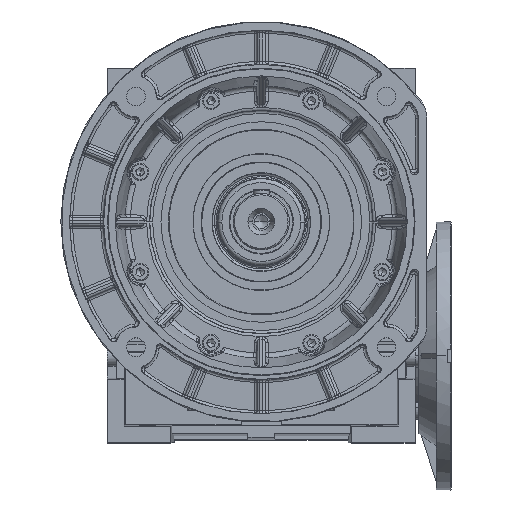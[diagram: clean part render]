
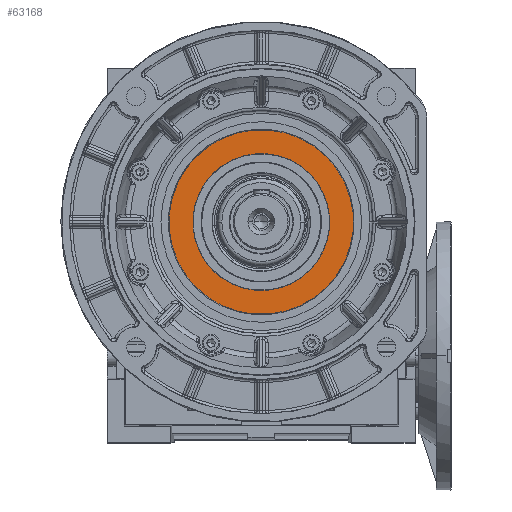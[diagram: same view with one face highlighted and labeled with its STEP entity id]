
A CAD part, top view. The second image highlights one B-rep face of the part: STEP entity #63168.
In plain terms, the highlighted planar face has unit normal (0, 0, 1).
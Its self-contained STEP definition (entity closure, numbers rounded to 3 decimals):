
#6466 = VERTEX_POINT ( 'NONE', #13175 ) ;
#6636 = CIRCLE ( 'NONE', #32523, 51.175 ) ;
#10559 = CIRCLE ( 'NONE', #72951, 69. ) ;
#10594 = CIRCLE ( 'NONE', #16642, 51.175 ) ;
#13175 = CARTESIAN_POINT ( 'NONE',  ( -36.186, -36.186, 65. ) ) ;
#16642 = AXIS2_PLACEMENT_3D ( 'NONE', #58616, #87701, #38140 ) ;
#16952 = VERTEX_POINT ( 'NONE', #38443 ) ;
#18520 = CIRCLE ( 'NONE', #51944, 69. ) ;
#19089 = EDGE_CURVE ( 'NONE', #6466, #16952, #10594, .T. ) ;
#19097 = DIRECTION ( 'NONE',  ( 0., 0., -1. ) ) ;
#20218 = DIRECTION ( 'NONE',  ( 0., 0., 1. ) ) ;
#23641 = ORIENTED_EDGE ( 'NONE', *, *, #35959, .F. ) ;
#24652 = EDGE_LOOP ( 'NONE', ( #58426, #87406 ) ) ;
#26426 = CARTESIAN_POINT ( 'NONE',  ( -48.79, 48.79, 65. ) ) ;
#32523 = AXIS2_PLACEMENT_3D ( 'NONE', #54015, #46861, #61157 ) ;
#32767 = DIRECTION ( 'NONE',  ( -0.707, -0.707, 0. ) ) ;
#32861 = EDGE_CURVE ( 'NONE', #90677, #59897, #10559, .T. ) ;
#35959 = EDGE_CURVE ( 'NONE', #59897, #90677, #18520, .T. ) ;
#38140 = DIRECTION ( 'NONE',  ( -0.707, -0.707, 0. ) ) ;
#38443 = CARTESIAN_POINT ( 'NONE',  ( 36.186, 36.186, 65. ) ) ;
#43178 = AXIS2_PLACEMENT_3D ( 'NONE', #26426, #20218, #84095 ) ;
#45434 = EDGE_LOOP ( 'NONE', ( #23641, #78175 ) ) ;
#46861 = DIRECTION ( 'NONE',  ( 0., 0., -1. ) ) ;
#47077 = DIRECTION ( 'NONE',  ( 0., 0., -1. ) ) ;
#51944 = AXIS2_PLACEMENT_3D ( 'NONE', #83292, #47077, #32767 ) ;
#54015 = CARTESIAN_POINT ( 'NONE',  ( 0., 0., 65. ) ) ;
#55038 = FACE_OUTER_BOUND ( 'NONE', #45434, .T. ) ;
#55331 = CARTESIAN_POINT ( 'NONE',  ( 0., 0., 65. ) ) ;
#56085 = CARTESIAN_POINT ( 'NONE',  ( 48.79, 48.79, 65. ) ) ;
#58426 = ORIENTED_EDGE ( 'NONE', *, *, #19089, .T. ) ;
#58616 = CARTESIAN_POINT ( 'NONE',  ( 0., 0., 65. ) ) ;
#59897 = VERTEX_POINT ( 'NONE', #56085 ) ;
#61157 = DIRECTION ( 'NONE',  ( -0.707, -0.707, 0. ) ) ;
#63168 = ADVANCED_FACE ( 'NONE', ( #77388, #55038 ), #75997, .T. ) ;
#67691 = CARTESIAN_POINT ( 'NONE',  ( -48.79, -48.79, 65. ) ) ;
#72951 = AXIS2_PLACEMENT_3D ( 'NONE', #55331, #19097, #75822 ) ;
#75822 = DIRECTION ( 'NONE',  ( -0.707, -0.707, 0. ) ) ;
#75997 = PLANE ( 'NONE',  #43178 ) ;
#77388 = FACE_BOUND ( 'NONE', #24652, .T. ) ;
#78175 = ORIENTED_EDGE ( 'NONE', *, *, #32861, .F. ) ;
#83292 = CARTESIAN_POINT ( 'NONE',  ( 0., 0., 65. ) ) ;
#84095 = DIRECTION ( 'NONE',  ( 0.707, 0.707, 0. ) ) ;
#87406 = ORIENTED_EDGE ( 'NONE', *, *, #94256, .T. ) ;
#87701 = DIRECTION ( 'NONE',  ( 0., 0., -1. ) ) ;
#90677 = VERTEX_POINT ( 'NONE', #67691 ) ;
#94256 = EDGE_CURVE ( 'NONE', #16952, #6466, #6636, .T. ) ;
